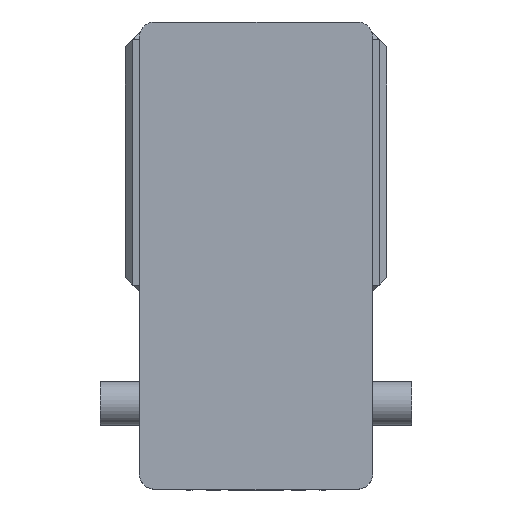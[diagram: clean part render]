
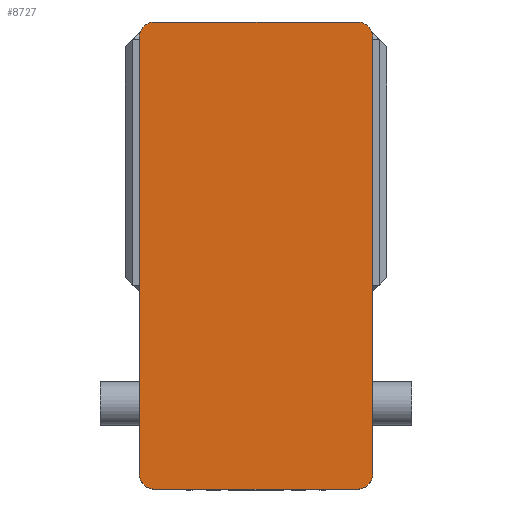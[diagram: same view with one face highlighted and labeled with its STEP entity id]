
A CAD part, left-side view. The second image highlights one B-rep face of the part: STEP entity #8727.
In plain terms, the highlighted planar face has unit normal (-1, 0, 0) as drawn and (0, 0, 1) by its records, which use the part's own axes.
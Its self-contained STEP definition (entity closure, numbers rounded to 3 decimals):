
#51 = DIRECTION ( 'NONE',  ( 1., 0., 0. ) ) ;
#56 = VECTOR ( 'NONE', #6312, 1000. ) ;
#61 = DIRECTION ( 'NONE',  ( 0., 0., 1. ) ) ;
#78 = CARTESIAN_POINT ( 'NONE',  ( -65., -140., 105. ) ) ;
#112 = CARTESIAN_POINT ( 'NONE',  ( -65., 150., 105. ) ) ;
#143 = LINE ( 'NONE', #6291, #56 ) ;
#260 = EDGE_CURVE ( 'NONE', #10001, #5341, #3020, .T. ) ;
#326 = CIRCLE ( 'NONE', #2272, 10. ) ;
#387 = CARTESIAN_POINT ( 'NONE',  ( 65., 140., 105. ) ) ;
#400 = DIRECTION ( 'NONE',  ( 0., 0., 1. ) ) ;
#470 = DIRECTION ( 'NONE',  ( 1., 0., 0. ) ) ;
#516 = CARTESIAN_POINT ( 'NONE',  ( -75., 140., 105. ) ) ;
#561 = EDGE_CURVE ( 'NONE', #10553, #7080, #2384, .T. ) ;
#1385 = EDGE_LOOP ( 'NONE', ( #10848, #8104, #8708, #8559, #9537, #7682, #5012, #8099 ) ) ;
#1574 = VERTEX_POINT ( 'NONE', #7855 ) ;
#1659 = EDGE_CURVE ( 'NONE', #6653, #1574, #326, .T. ) ;
#1847 = EDGE_CURVE ( 'NONE', #5052, #6653, #143, .T. ) ;
#1858 = AXIS2_PLACEMENT_3D ( 'NONE', #4685, #11137, #4863 ) ;
#2272 = AXIS2_PLACEMENT_3D ( 'NONE', #6520, #6799, #8426 ) ;
#2384 = CIRCLE ( 'NONE', #5961, 10. ) ;
#2794 = AXIS2_PLACEMENT_3D ( 'NONE', #387, #400, #470 ) ;
#3020 = CIRCLE ( 'NONE', #2794, 10. ) ;
#3245 = CARTESIAN_POINT ( 'NONE',  ( 75., 140., 105. ) ) ;
#3565 = CARTESIAN_POINT ( 'NONE',  ( -75., 150., 105. ) ) ;
#3595 = CIRCLE ( 'NONE', #5389, 10. ) ;
#4067 = PLANE ( 'NONE',  #1858 ) ;
#4169 = DIRECTION ( 'NONE',  ( 0., -1., 0. ) ) ;
#4685 = CARTESIAN_POINT ( 'NONE',  ( 0., 0., 105. ) ) ;
#4863 = DIRECTION ( 'NONE',  ( 1., 0., 0. ) ) ;
#5012 = ORIENTED_EDGE ( 'NONE', *, *, #10788, .T. ) ;
#5052 = VERTEX_POINT ( 'NONE', #8007 ) ;
#5341 = VERTEX_POINT ( 'NONE', #5619 ) ;
#5389 = AXIS2_PLACEMENT_3D ( 'NONE', #78, #61, #51 ) ;
#5603 = FACE_OUTER_BOUND ( 'NONE', #1385, .T. ) ;
#5619 = CARTESIAN_POINT ( 'NONE',  ( 65., 150., 105. ) ) ;
#5750 = CARTESIAN_POINT ( 'NONE',  ( 65., -150., 105. ) ) ;
#5803 = CARTESIAN_POINT ( 'NONE',  ( 75., 150., 105. ) ) ;
#5824 = EDGE_CURVE ( 'NONE', #11097, #5052, #3595, .T. ) ;
#5961 = AXIS2_PLACEMENT_3D ( 'NONE', #9563, #10035, #9890 ) ;
#6035 = VECTOR ( 'NONE', #11345, 1000. ) ;
#6291 = CARTESIAN_POINT ( 'NONE',  ( -75., -150., 105. ) ) ;
#6312 = DIRECTION ( 'NONE',  ( 1., 0., 0. ) ) ;
#6425 = CARTESIAN_POINT ( 'NONE',  ( -75., -140., 105. ) ) ;
#6520 = CARTESIAN_POINT ( 'NONE',  ( 65., -140., 105. ) ) ;
#6653 = VERTEX_POINT ( 'NONE', #5750 ) ;
#6799 = DIRECTION ( 'NONE',  ( 0., 0., 1. ) ) ;
#7080 = VERTEX_POINT ( 'NONE', #516 ) ;
#7317 = LINE ( 'NONE', #3565, #7384 ) ;
#7384 = VECTOR ( 'NONE', #4169, 1000. ) ;
#7490 = VECTOR ( 'NONE', #10327, 1000. ) ;
#7502 = LINE ( 'NONE', #9396, #7490 ) ;
#7682 = ORIENTED_EDGE ( 'NONE', *, *, #561, .T. ) ;
#7855 = CARTESIAN_POINT ( 'NONE',  ( 75., -140., 105. ) ) ;
#8007 = CARTESIAN_POINT ( 'NONE',  ( -65., -150., 105. ) ) ;
#8099 = ORIENTED_EDGE ( 'NONE', *, *, #5824, .T. ) ;
#8104 = ORIENTED_EDGE ( 'NONE', *, *, #1659, .T. ) ;
#8426 = DIRECTION ( 'NONE',  ( 1., 0., 0. ) ) ;
#8559 = ORIENTED_EDGE ( 'NONE', *, *, #260, .T. ) ;
#8708 = ORIENTED_EDGE ( 'NONE', *, *, #9166, .T. ) ;
#8727 = ADVANCED_FACE ( 'NONE', ( #5603 ), #4067, .T. ) ;
#9166 = EDGE_CURVE ( 'NONE', #1574, #10001, #9434, .T. ) ;
#9396 = CARTESIAN_POINT ( 'NONE',  ( -75., 150., 105. ) ) ;
#9434 = LINE ( 'NONE', #5803, #6035 ) ;
#9537 = ORIENTED_EDGE ( 'NONE', *, *, #10674, .T. ) ;
#9563 = CARTESIAN_POINT ( 'NONE',  ( -65., 140., 105. ) ) ;
#9890 = DIRECTION ( 'NONE',  ( 1., 0., 0. ) ) ;
#10001 = VERTEX_POINT ( 'NONE', #3245 ) ;
#10035 = DIRECTION ( 'NONE',  ( 0., 0., 1. ) ) ;
#10327 = DIRECTION ( 'NONE',  ( -1., 0., 0. ) ) ;
#10553 = VERTEX_POINT ( 'NONE', #112 ) ;
#10674 = EDGE_CURVE ( 'NONE', #5341, #10553, #7502, .T. ) ;
#10788 = EDGE_CURVE ( 'NONE', #7080, #11097, #7317, .T. ) ;
#10848 = ORIENTED_EDGE ( 'NONE', *, *, #1847, .T. ) ;
#11097 = VERTEX_POINT ( 'NONE', #6425 ) ;
#11137 = DIRECTION ( 'NONE',  ( 0., 0., 1. ) ) ;
#11345 = DIRECTION ( 'NONE',  ( 0., 1., 0. ) ) ;
